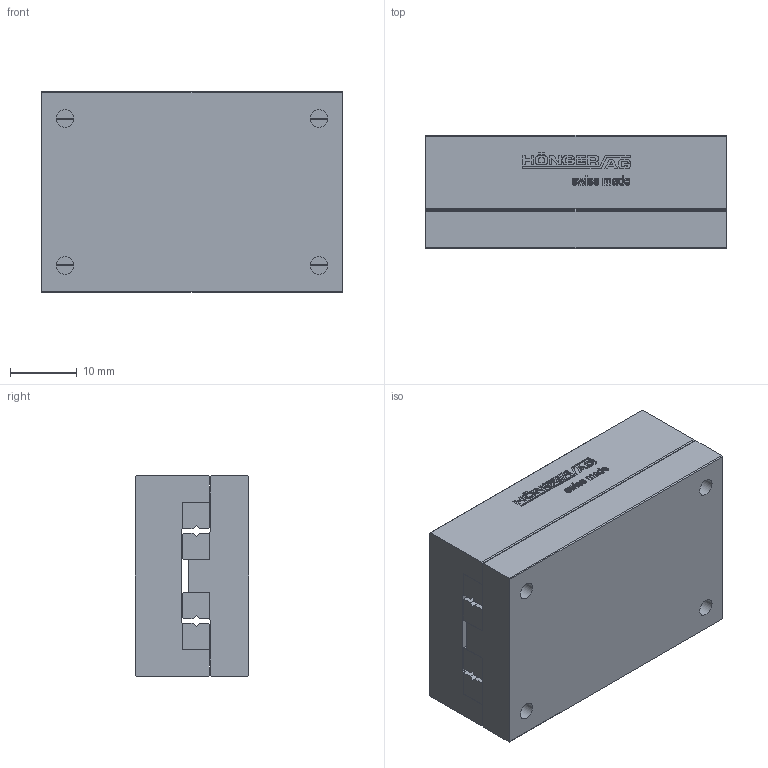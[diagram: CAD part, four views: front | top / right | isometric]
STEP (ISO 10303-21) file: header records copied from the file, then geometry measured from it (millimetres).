
FILE_DESCRIPTION(/* description */ ('STEP AP214'),/* implementation_level */ '2;1');
FILE_NAME(/* name */ 'NK 1-45-B(0)',/* time_stamp */ '2025-04-22T17:46:52+02:00',/* author */ ('License CC BY-ND 4.0'),/* organization */ ('CADENAS'),/* preprocessor_version */ 'ST-DEVELOPER v19.3',/* originating_system */ 'PARTsolutions',/* authorisation */ ' ');
FILE_SCHEMA (('AUTOMOTIVE_DESIGN {1 0 10303 214 3 1 1}'));
Length unit declared in the file: millimetre
Products named in the file (3): NK 1-45-B(0); NK 1-45-B_1; NK 1-45-B_2
Assembly tree (2 placements, depth 2):
  NK 1-45-B(0)
    NK 1-45-B_1
    NK 1-45-B_2
Bounding box: 45 x 17 x 30 mm (x, y, z)
Volume: 22011.5 mm3; surface area: 10558.1 mm2
Topology: 2 solids, 2 shells, 603 faces, 1664 edges, 1100 vertices
Faces by surface type: cylinder 306, plane 285, cone 12
Full cylindrical faces by diameter (mm): 1.567 x6, 2.6 x4, 4.1 x4
Entity records: 19363 total; most frequent: DIRECTION 3474, CARTESIAN_POINT 3344, ORIENTED_EDGE 3276, EDGE_CURVE 1638, AXIS2_PLACEMENT_3D 1230, VERTEX_POINT 1100, LINE 1014, VECTOR 1014
